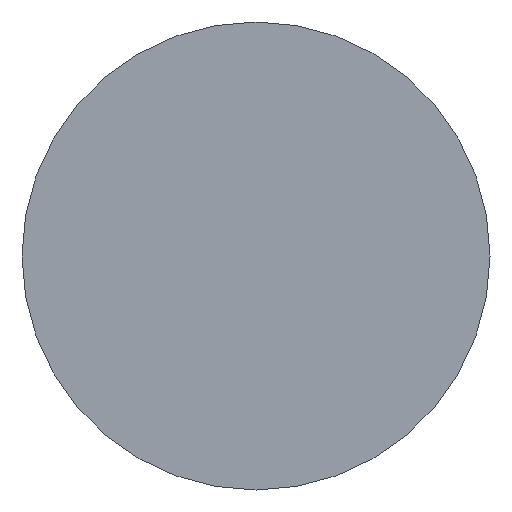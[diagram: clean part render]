
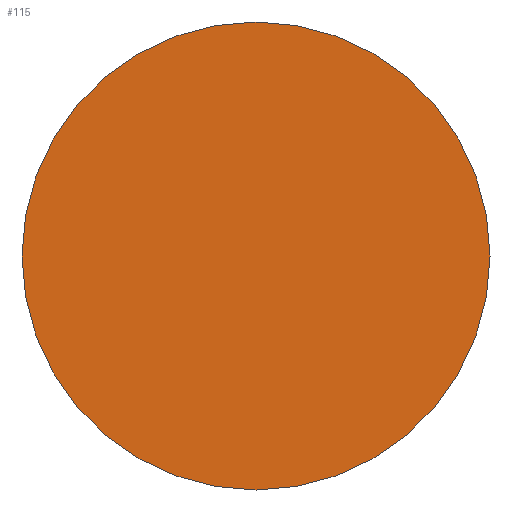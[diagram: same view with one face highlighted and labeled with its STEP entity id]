
A CAD part, front view. The second image highlights one B-rep face of the part: STEP entity #115.
In plain terms, the highlighted planar face has unit normal (0, -1, 0).
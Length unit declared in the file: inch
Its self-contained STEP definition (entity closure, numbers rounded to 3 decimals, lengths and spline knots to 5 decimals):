
#12 = DIRECTION ( 'NONE',  ( 0., 1., 0. ) ) ;
#15 = CARTESIAN_POINT ( 'NONE',  ( 0., 0., 0. ) ) ;
#26 = CARTESIAN_POINT ( 'NONE',  ( 0., 0., -0.055 ) ) ;
#28 = EDGE_CURVE ( 'NONE', #179, #96, #34, .T. ) ;
#29 = CARTESIAN_POINT ( 'NONE',  ( 0., 0., 0. ) ) ;
#30 = DIRECTION ( 'NONE',  ( 0., 0., -1. ) ) ;
#34 = CIRCLE ( 'NONE', #106, 0.055 ) ;
#38 = EDGE_CURVE ( 'NONE', #96, #179, #247, .T. ) ;
#45 = CARTESIAN_POINT ( 'NONE',  ( 0., 0., 0.055 ) ) ;
#55 = PLANE ( 'NONE',  #120 ) ;
#62 = AXIS2_PLACEMENT_3D ( 'NONE', #29, #114, #82 ) ;
#82 = DIRECTION ( 'NONE',  ( 0., 0., -1. ) ) ;
#86 = CARTESIAN_POINT ( 'NONE',  ( 0., 0., 0. ) ) ;
#93 = FACE_OUTER_BOUND ( 'NONE', #221, .T. ) ;
#96 = VERTEX_POINT ( 'NONE', #26 ) ;
#106 = AXIS2_PLACEMENT_3D ( 'NONE', #15, #125, #30 ) ;
#112 = ORIENTED_EDGE ( 'NONE', *, *, #38, .T. ) ;
#114 = DIRECTION ( 'NONE',  ( 0., -1., 0. ) ) ;
#115 = ADVANCED_FACE ( 'NONE', ( #93 ), #55, .F. ) ;
#120 = AXIS2_PLACEMENT_3D ( 'NONE', #86, #12, #122 ) ;
#122 = DIRECTION ( 'NONE',  ( 0., 0., 1. ) ) ;
#125 = DIRECTION ( 'NONE',  ( 0., -1., 0. ) ) ;
#169 = ORIENTED_EDGE ( 'NONE', *, *, #28, .T. ) ;
#179 = VERTEX_POINT ( 'NONE', #45 ) ;
#221 = EDGE_LOOP ( 'NONE', ( #112, #169 ) ) ;
#247 = CIRCLE ( 'NONE', #62, 0.055 ) ;
